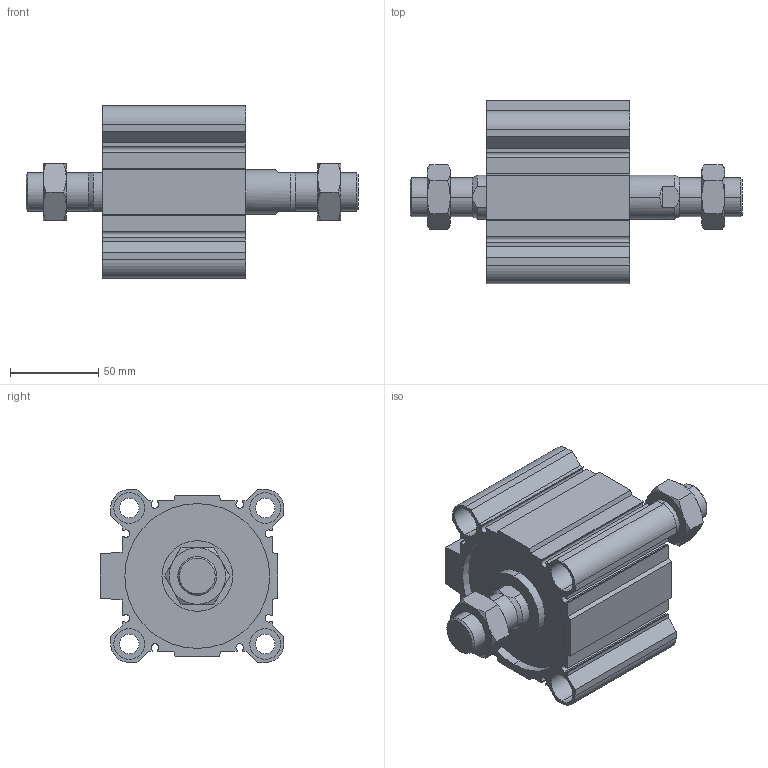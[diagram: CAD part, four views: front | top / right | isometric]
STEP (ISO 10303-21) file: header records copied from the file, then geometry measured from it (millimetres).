
FILE_DESCRIPTION (( 'STEP AP203' ), '1' );
FILE_NAME ('CCMB80-20M-P.STEP', '2020-08-10T11:53:22', ( '' ), ( '' ), 'SwSTEP 2.0', 'SolidWorks 2019', '' );
FILE_SCHEMA (( 'CONFIG_CONTROL_DESIGN' ));
Length unit declared in the file: millimetre
Products named in the file (1): CCMB80-20M-P
Bounding box: 188 x 104 x 98 mm (x, y, z)
Volume: 553935.9 mm3; surface area: 136803.6 mm2
Topology: 4 solids, 4 shells, 228 faces, 558 edges, 356 vertices
Faces by surface type: plane 106, cylinder 78, cone 44
Entity records: 7569 total; most frequent: CARTESIAN_POINT 2055, DIRECTION 1148, ORIENTED_EDGE 1116, EDGE_CURVE 558, AXIS2_PLACEMENT_3D 425, VERTEX_POINT 356, LINE 298, VECTOR 298
